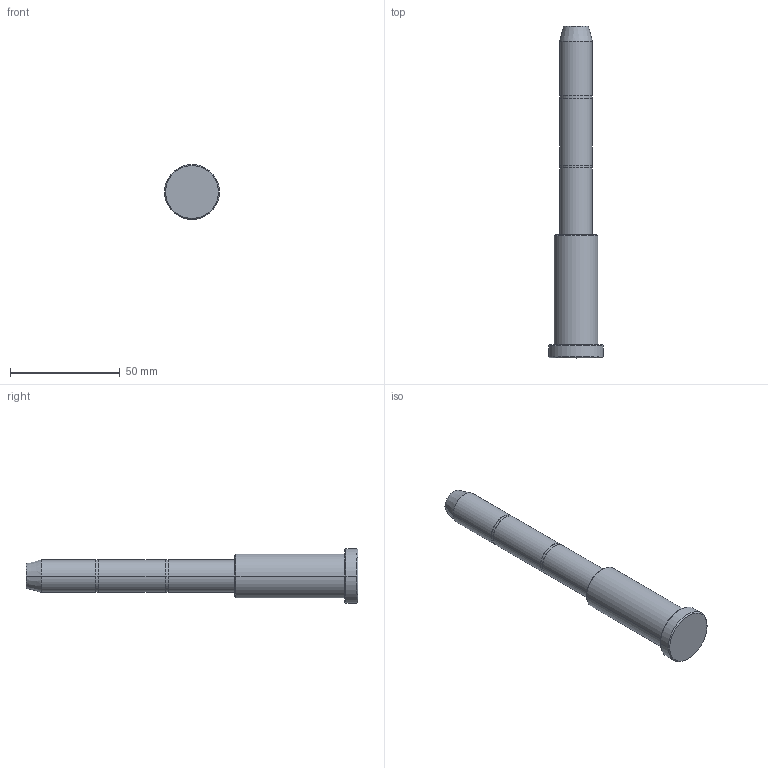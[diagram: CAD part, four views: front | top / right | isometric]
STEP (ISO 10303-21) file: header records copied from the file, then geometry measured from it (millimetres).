
FILE_DESCRIPTION (( 'STEP AP214' ), '1' );
FILE_NAME ('BR03 15x56x95.STEP', '2019-04-10T08:07:30', ( 'August' ), ( '' ), 'SwSTEP 2.0', 'SolidWorks 2018', '' );
FILE_SCHEMA (( 'AUTOMOTIVE_DESIGN' ));
Length unit declared in the file: millimetre
Products named in the file (1): BR03 15x56x95
Bounding box: 25 x 151 x 25 mm (x, y, z)
Volume: 35112.9 mm3; surface area: 8923.2 mm2
Topology: 1 solids, 1 shells, 30 faces, 58 edges, 36 vertices
Faces by surface type: cylinder 14, cone 8, plane 8
Entity records: 808 total; most frequent: DIRECTION 156, CARTESIAN_POINT 125, ORIENTED_EDGE 116, AXIS2_PLACEMENT_3D 67, EDGE_CURVE 58, VERTEX_POINT 36, CIRCLE 36, EDGE_LOOP 36
